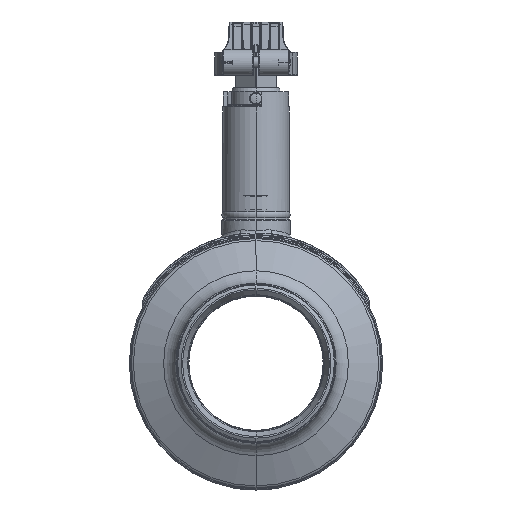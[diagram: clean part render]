
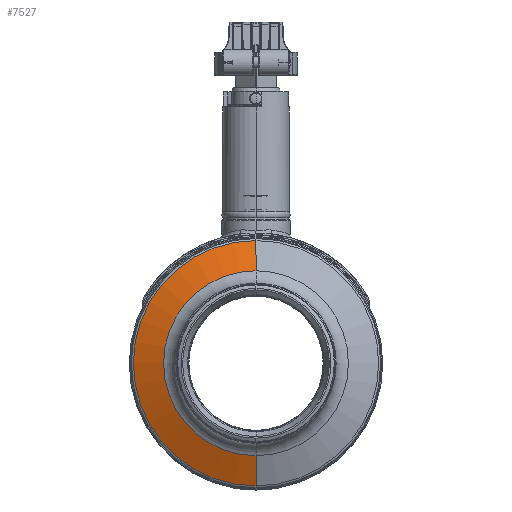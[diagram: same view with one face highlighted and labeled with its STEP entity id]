
A CAD part, left-side view. The second image highlights one B-rep face of the part: STEP entity #7527.
In plain terms, the highlighted conical face has half-angle 66.194 degrees and reference radius 78.482 mm.
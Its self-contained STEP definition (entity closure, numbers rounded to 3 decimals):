
#370=CARTESIAN_POINT('',(-65.515,0.,0.));
#371=DIRECTION('',(1.,0.,0.));
#372=DIRECTION('',(0.,0.,-1.));
#373=AXIS2_PLACEMENT_3D('',#370,#371,#372);
#375=CARTESIAN_POINT('',(-75.254,0.,0.));
#376=DIRECTION('',(1.,0.,0.));
#377=DIRECTION('',(0.,0.,-1.));
#378=AXIS2_PLACEMENT_3D('',#375,#376,#377);
#451=DIRECTION('',(-0.404,0.,0.915));
#452=VECTOR('',#451,24.125);
#453=CARTESIAN_POINT('',(-65.515,0.,
-89.518));
#454=LINE('',#453,#452);
#460=DIRECTION('',(-0.404,0.,-0.915));
#461=VECTOR('',#460,24.125);
#462=CARTESIAN_POINT('',(-65.515,0.,
89.518));
#463=LINE('',#462,#461);
#7109=CARTESIAN_POINT('',(-65.515,0.,
-89.518));
#7110=CARTESIAN_POINT('',(-65.515,0.,
89.518));
#7111=VERTEX_POINT('',#7109);
#7112=VERTEX_POINT('',#7110);
#7117=CARTESIAN_POINT('',(-75.254,0.,67.445));
#7118=VERTEX_POINT('',#7117);
#7119=CARTESIAN_POINT('',(-75.254,0.,
-67.445));
#7120=VERTEX_POINT('',#7119);
#7513=CARTESIAN_POINT('',(-70.385,0.,0.));
#7514=DIRECTION('',(1.,0.,0.));
#7515=DIRECTION('',(0.,0.,1.));
#7516=AXIS2_PLACEMENT_3D('',#7513,#7514,#7515);
#7517=CONICAL_SURFACE('',#7516,78.482,66.194);
#7519=ORIENTED_EDGE('',*,*,#7518,.T.);
#7521=ORIENTED_EDGE('',*,*,#7520,.T.);
#7522=ORIENTED_EDGE('',*,*,#7507,.F.);
#7524=ORIENTED_EDGE('',*,*,#7523,.F.);
#7525=EDGE_LOOP('',(#7519,#7521,#7522,#7524));
#7526=FACE_OUTER_BOUND('',#7525,.F.);
#374=CIRCLE('',#373,89.518);
#379=CIRCLE('',#378,67.445);
#7507=EDGE_CURVE('',#7120,#7118,#379,.T.);
#7518=EDGE_CURVE('',#7111,#7112,#374,.T.);
#7520=EDGE_CURVE('',#7112,#7118,#463,.T.);
#7523=EDGE_CURVE('',#7111,#7120,#454,.T.);
#7527=ADVANCED_FACE('',(#7526),#7517,.T.);
